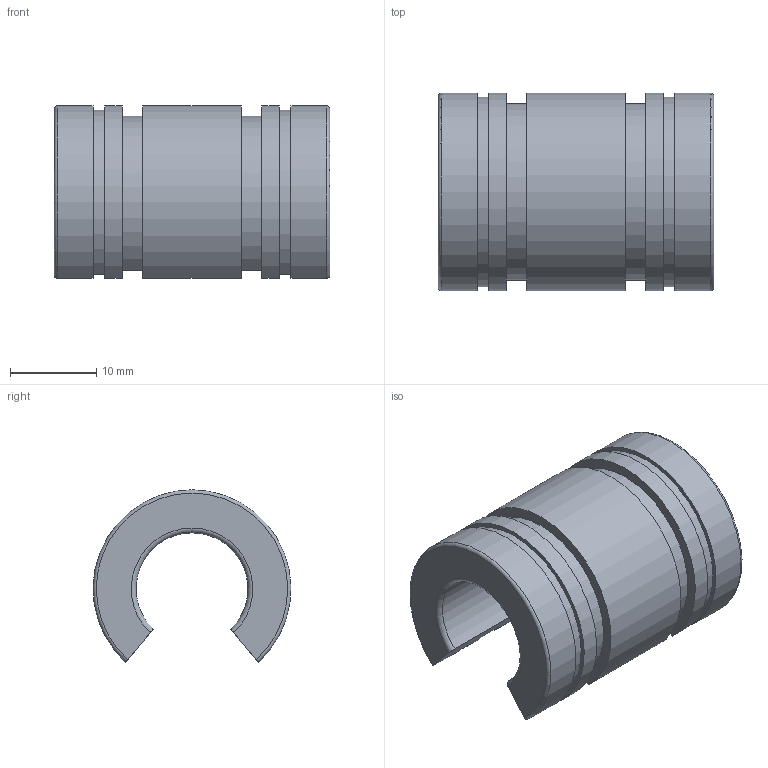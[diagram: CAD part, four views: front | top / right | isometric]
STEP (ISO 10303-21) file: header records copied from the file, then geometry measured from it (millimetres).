
FILE_DESCRIPTION(('STEP AP203'),'1');
FILE_NAME('//192.168.1.1/share/s-4 技術開発/s-4-4_CAD/s-4-4-3_見直し済み/PBC LINEAR修正済み/FJN/FJN_TOP/FJN13.step','2022-03-24T07:44:12',(' '),(' '),'Spatial InterOp 3D',' ',' ');
FILE_SCHEMA(('CONFIG_CONTROL_DESIGN'));
Length unit declared in the file: millimetre
Products named in the file (1): 1
Bounding box: 32 x 22.99 x 20.03 mm (x, y, z)
Volume: 6514.5 mm3; surface area: 3793.9 mm2
Topology: 1 solids, 1 shells, 26 faces, 72 edges, 48 vertices
Faces by surface type: plane 12, cylinder 10, torus 4
Entity records: 908 total; most frequent: CARTESIAN_POINT 187, ORIENTED_EDGE 144, DIRECTION 142, EDGE_CURVE 72, AXIS2_PLACEMENT_3D 51, VERTEX_POINT 48, LINE 40, VECTOR 40
